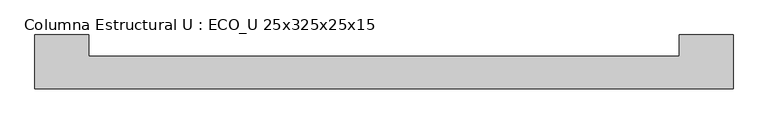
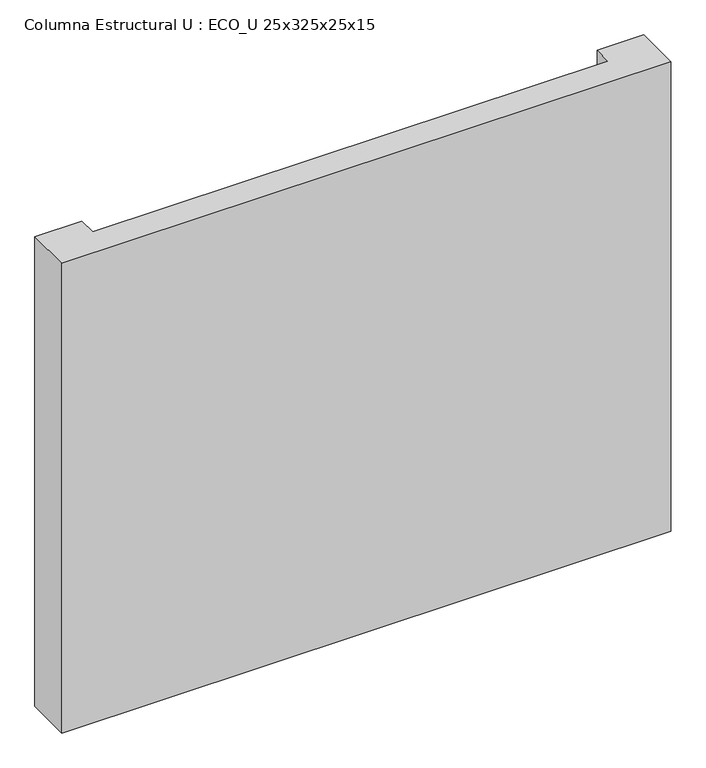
"""IFC4 building model written with IfcOpenShell, lengths in millimetres: column geometry, Columna Estructural U : ECO_U 25x325x25x15."""

from ifc_helpers import new_model, si_unit, frame, origin, place, context, project, spatial, polyline, outline, extrude, source, transform, mapped, element, save


def columna_estructural_u_eco_u_25x325x25x15_4ea3d3db(model_context):
    return source(origin(), model_context, "Body", "SweptSolid", [
        extrude(outline(polyline([(1375.0, 75.0), (1375.0, 175.0), (1625.0, 175.0), (1625.0, -75.0), (-1625.0, -75.0), (-1625.0, 175.0), (-1375.0, 175.0), (-1375.0, 75.0), (1375.0, 75.0)])), frame((0.0, 0.0, 10700.0), z_axis=(0.0, 0.0, 1.0), x_axis=(1.0, 0.0, 0.0)), (0.0, 0.0, 1.0), 2650.0),
    ])


if __name__ == "__main__":
    model = new_model("IFC4")
    model_context = context("Model", 3, world=origin())
    ifc_project = project(units=[si_unit("LENGTHUNIT", "METRE", prefix="MILLI")], contexts=[model_context])
    site = spatial("IfcSite", under=ifc_project)
    building = spatial("IfcBuilding", under=site)
    placement = place(None, origin())
    columna_estructural_u_eco_u_25x325x25x15_shape = columna_estructural_u_eco_u_25x325x25x15_4ea3d3db(model_context)
    element("IfcColumn", 1, ObjectType="Columna Estructural U : ECO_U 25x325x25x15", at=placement, inside=building, context=model_context, shape_type="MappedRepresentation", body=[
        mapped(columna_estructural_u_eco_u_25x325x25x15_shape, transform((0.0, 0.0, 0.0), x_axis=(1.0, 0.0, 0.0), y_axis=(0.0, 1.0, 0.0), z_axis=(0.0, 0.0, 1.0))),
    ])
    save(model, "model.ifc")
